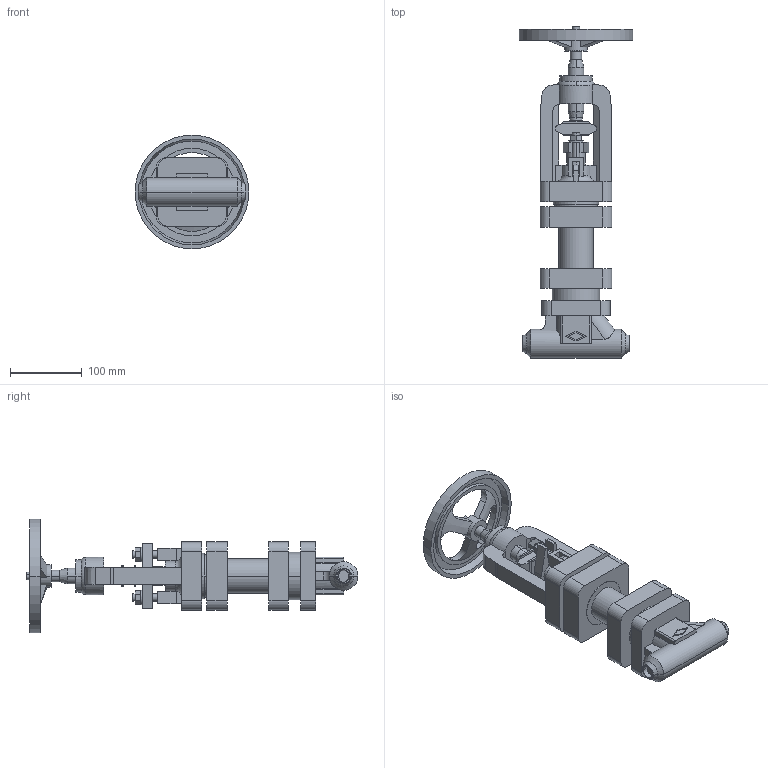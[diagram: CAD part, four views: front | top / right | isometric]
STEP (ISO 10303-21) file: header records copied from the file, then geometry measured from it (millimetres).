
FILE_DESCRIPTION(('Creo Elements/Direct Modeling STEP Export'),'2;1');
FILE_NAME('Figur146-SE_DN15_PN63.stp','2018-01-22T 7:54:11',(''),(''),'Creo Elements/Direct Modeling STEP processor for AP214 (Solid Model)','Creo Elements/Direct Modeling 18.1C 24-Feb-2013 (C) Parametric Technology GmbH','');
FILE_SCHEMA(('AUTOMOTIVE_DESIGN { 1 0 10303 214 1 1 1 1 }'));
Length unit declared in the file: millimetre
Products named in the file (1): 1
Bounding box: 158.78 x 463.55 x 158.78 mm (x, y, z)
Volume: 1930351 mm3; surface area: 240660.5 mm2
Topology: 1 solids, 1 shells, 367 faces, 982 edges, 644 vertices
Faces by surface type: plane 214, cylinder 109, cone 30, extrusion 8, torus 6
Entity records: 11753 total; most frequent: CARTESIAN_POINT 2982, ORIENTED_EDGE 1964, DIRECTION 1647, EDGE_CURVE 982, VERTEX_POINT 644, VECTOR 617, LINE 611, AXIS2_PLACEMENT_3D 515
